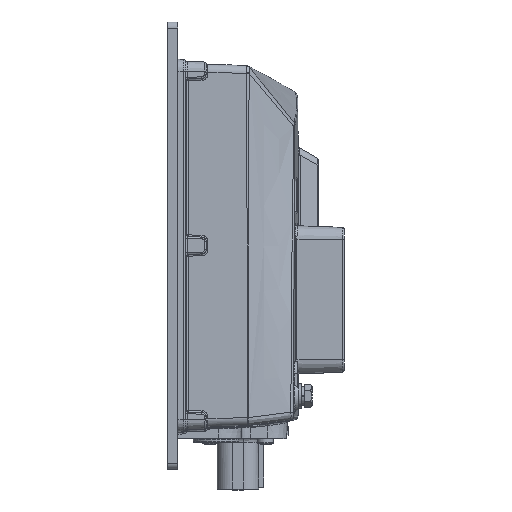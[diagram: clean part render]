
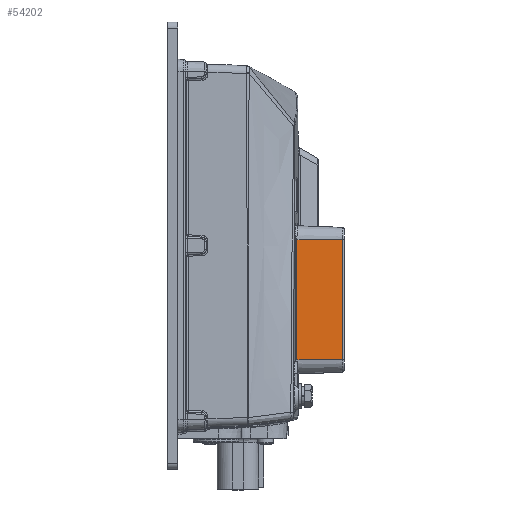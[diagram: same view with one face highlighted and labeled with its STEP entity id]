
A CAD part, top view. The second image highlights one B-rep face of the part: STEP entity #54202.
In plain terms, the highlighted planar face has unit normal (0.035, 0, 0.999).
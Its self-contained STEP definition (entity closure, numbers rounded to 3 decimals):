
#5989 = EDGE_CURVE ( 'NONE', #19042, #24705, #13954, .T. ) ;
#10150 = CARTESIAN_POINT ( 'NONE',  ( 64.447, -32., 96.422 ) ) ;
#12164 = VECTOR ( 'NONE', #69336, 1000. ) ;
#13332 = ORIENTED_EDGE ( 'NONE', *, *, #54649, .T. ) ;
#13954 = LINE ( 'NONE', #52452, #12164 ) ;
#14149 = VECTOR ( 'NONE', #14494, 1000. ) ;
#14494 = DIRECTION ( 'NONE',  ( 0., 1., 0. ) ) ;
#14994 = VERTEX_POINT ( 'NONE', #47576 ) ;
#15013 = VERTEX_POINT ( 'NONE', #53152 ) ;
#15439 = VECTOR ( 'NONE', #37305, 1000. ) ;
#16035 = PLANE ( 'NONE',  #40848 ) ;
#17038 = EDGE_CURVE ( 'NONE', #15013, #19042, #44699, .T. ) ;
#18439 = ORIENTED_EDGE ( 'NONE', *, *, #5989, .T. ) ;
#19042 = VERTEX_POINT ( 'NONE', #60645 ) ;
#24705 = VERTEX_POINT ( 'NONE', #25965 ) ;
#25965 = CARTESIAN_POINT ( 'NONE',  ( 87.035, -57., 95.634 ) ) ;
#27306 = CARTESIAN_POINT ( 'NONE',  ( 88., -32., 95.6 ) ) ;
#32853 = DIRECTION ( 'NONE',  ( 0.999, 0., -0.035 ) ) ;
#36962 = CARTESIAN_POINT ( 'NONE',  ( 87.035, 3., 95.634 ) ) ;
#37305 = DIRECTION ( 'NONE',  ( 0.999, 0., -0.035 ) ) ;
#40848 = AXIS2_PLACEMENT_3D ( 'NONE', #27306, #66355, #32853 ) ;
#43862 = LINE ( 'NONE', #36962, #14149 ) ;
#44699 = LINE ( 'NONE', #10150, #57807 ) ;
#45148 = LINE ( 'NONE', #65182, #15439 ) ;
#46352 = EDGE_LOOP ( 'NONE', ( #50453, #66229, #18439, #13332 ) ) ;
#47576 = CARTESIAN_POINT ( 'NONE',  ( 87.035, 3., 95.634 ) ) ;
#50453 = ORIENTED_EDGE ( 'NONE', *, *, #57097, .F. ) ;
#52452 = CARTESIAN_POINT ( 'NONE',  ( 88., -57., 95.6 ) ) ;
#53152 = CARTESIAN_POINT ( 'NONE',  ( 64.447, 3., 96.422 ) ) ;
#54202 = ADVANCED_FACE ( 'NONE', ( #64906 ), #16035, .T. ) ;
#54649 = EDGE_CURVE ( 'NONE', #24705, #14994, #43862, .T. ) ;
#57097 = EDGE_CURVE ( 'NONE', #15013, #14994, #45148, .T. ) ;
#57807 = VECTOR ( 'NONE', #65918, 1000. ) ;
#60645 = CARTESIAN_POINT ( 'NONE',  ( 64.447, -57., 96.422 ) ) ;
#64906 = FACE_OUTER_BOUND ( 'NONE', #46352, .T. ) ;
#65182 = CARTESIAN_POINT ( 'NONE',  ( 88., 3., 95.6 ) ) ;
#65918 = DIRECTION ( 'NONE',  ( 0., -1., 0. ) ) ;
#66229 = ORIENTED_EDGE ( 'NONE', *, *, #17038, .T. ) ;
#66355 = DIRECTION ( 'NONE',  ( 0.035, 0., 0.999 ) ) ;
#69336 = DIRECTION ( 'NONE',  ( 0.999, 0., -0.035 ) ) ;
